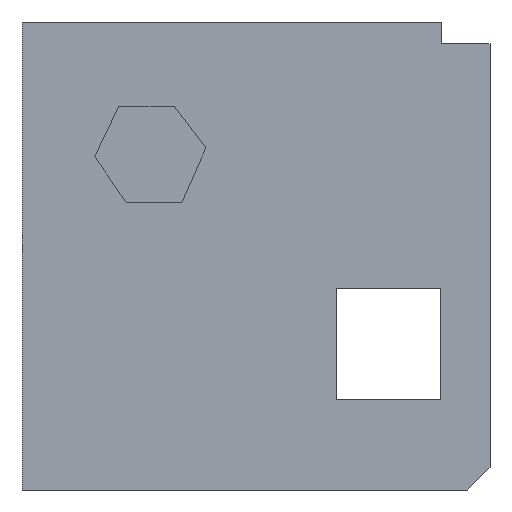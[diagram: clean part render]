
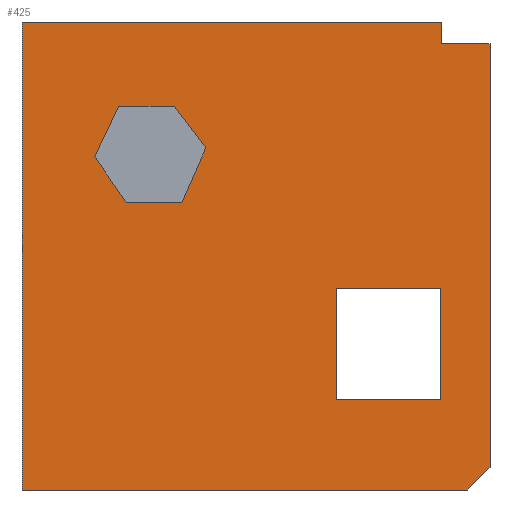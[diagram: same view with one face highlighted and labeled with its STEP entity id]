
A CAD part, left-side view. The second image highlights one B-rep face of the part: STEP entity #425.
In plain terms, the highlighted planar face has unit normal (-1, 0, 0).
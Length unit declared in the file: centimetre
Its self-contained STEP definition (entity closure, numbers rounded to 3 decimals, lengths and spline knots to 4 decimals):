
#3 = DIRECTION ( 'NONE',  ( 0., 0., -1. ) ) ;
#4 = EDGE_CURVE ( 'NONE', #562, #194, #580, .T. ) ;
#13 = CARTESIAN_POINT ( 'NONE',  ( 0., 328.7782, 192.6639 ) ) ;
#27 = ORIENTED_EDGE ( 'NONE', *, *, #275, .T. ) ;
#37 = CARTESIAN_POINT ( 'NONE',  ( 0., 0., 953.7079 ) ) ;
#40 = VERTEX_POINT ( 'NONE', #463 ) ;
#43 = CARTESIAN_POINT ( 'NONE',  ( 0., 777.1706, 614.1453 ) ) ;
#50 = DIRECTION ( 'NONE',  ( 0., -1., 0. ) ) ;
#68 = CARTESIAN_POINT ( 'NONE',  ( 0., 1000., 1000. ) ) ;
#75 = VERTEX_POINT ( 'NONE', #279 ) ;
#85 = DIRECTION ( 'NONE',  ( 0., -0.567, -0.824 ) ) ;
#87 = EDGE_CURVE ( 'NONE', #75, #521, #113, .T. ) ;
#92 = DIRECTION ( 'NONE',  ( 0., -1., 0. ) ) ;
#98 = CARTESIAN_POINT ( 'NONE',  ( 0., 106.5347, 431.6053 ) ) ;
#110 = DIRECTION ( 'NONE',  ( 0., 0., -1. ) ) ;
#113 = LINE ( 'NONE', #379, #866 ) ;
#124 = ORIENTED_EDGE ( 'NONE', *, *, #612, .T. ) ;
#130 = EDGE_LOOP ( 'NONE', ( #295, #833, #807, #315, #124, #575, #131 ) ) ;
#131 = ORIENTED_EDGE ( 'NONE', *, *, #355, .T. ) ;
#140 = DIRECTION ( 'NONE',  ( 0., 0., -1. ) ) ;
#143 = EDGE_CURVE ( 'NONE', #1066, #410, #207, .T. ) ;
#146 = FACE_OUTER_BOUND ( 'NONE', #130, .T. ) ;
#150 = DIRECTION ( 'NONE',  ( 0., -0.707, 0.707 ) ) ;
#168 = LINE ( 'NONE', #68, #835 ) ;
#182 = LINE ( 'NONE', #723, #915 ) ;
#190 = EDGE_CURVE ( 'NONE', #697, #562, #797, .T. ) ;
#193 = VECTOR ( 'NONE', #391, 100. ) ;
#194 = VERTEX_POINT ( 'NONE', #37 ) ;
#202 = LINE ( 'NONE', #13, #966 ) ;
#207 = LINE ( 'NONE', #555, #766 ) ;
#211 = CARTESIAN_POINT ( 'NONE',  ( 0., 106.5347, 192.6639 ) ) ;
#223 = ORIENTED_EDGE ( 'NONE', *, *, #631, .T. ) ;
#225 = LINE ( 'NONE', #939, #285 ) ;
#248 = CARTESIAN_POINT ( 'NONE',  ( 0., 777.1706, 614.1453 ) ) ;
#249 = VERTEX_POINT ( 'NONE', #804 ) ;
#260 = CARTESIAN_POINT ( 'NONE',  ( 0., 658.4761, 614.1453 ) ) ;
#275 = EDGE_CURVE ( 'NONE', #388, #249, #811, .T. ) ;
#279 = CARTESIAN_POINT ( 'NONE',  ( 0., 607.2365, 730.9806 ) ) ;
#282 = CARTESIAN_POINT ( 'NONE',  ( 0., 104.6143, 1000. ) ) ;
#285 = VECTOR ( 'NONE', #576, 100. ) ;
#295 = ORIENTED_EDGE ( 'NONE', *, *, #489, .F. ) ;
#315 = ORIENTED_EDGE ( 'NONE', *, *, #573, .F. ) ;
#316 = CARTESIAN_POINT ( 'NONE',  ( 0., 1000., 1000. ) ) ;
#319 = CARTESIAN_POINT ( 'NONE',  ( 0., 0., 47.826 ) ) ;
#321 = ORIENTED_EDGE ( 'NONE', *, *, #826, .F. ) ;
#326 = VECTOR ( 'NONE', #110, 100. ) ;
#333 = CARTESIAN_POINT ( 'NONE',  ( 0., 47.826, 0. ) ) ;
#343 = VECTOR ( 'NONE', #92, 100. ) ;
#349 = EDGE_LOOP ( 'NONE', ( #223, #437, #607, #27 ) ) ;
#355 = EDGE_CURVE ( 'NONE', #552, #380, #747, .T. ) ;
#365 = CARTESIAN_POINT ( 'NONE',  ( 0., 793.3859, 819.7302 ) ) ;
#378 = AXIS2_PLACEMENT_3D ( 'NONE', #928, #1098, #140 ) ;
#379 = CARTESIAN_POINT ( 'NONE',  ( 0., 607.2365, 730.9806 ) ) ;
#380 = VERTEX_POINT ( 'NONE', #847 ) ;
#383 = CARTESIAN_POINT ( 'NONE',  ( 0., 1000., 1000. ) ) ;
#388 = VERTEX_POINT ( 'NONE', #500 ) ;
#391 = DIRECTION ( 'NONE',  ( 0., 0., -1. ) ) ;
#395 = VERTEX_POINT ( 'NONE', #43 ) ;
#397 = DIRECTION ( 'NONE',  ( 0., -1., 0. ) ) ;
#410 = VERTEX_POINT ( 'NONE', #1014 ) ;
#415 = VECTOR ( 'NONE', #3, 100. ) ;
#419 = LINE ( 'NONE', #661, #578 ) ;
#420 = EDGE_CURVE ( 'NONE', #896, #552, #419, .T. ) ;
#425 = ADVANCED_FACE ( 'NONE', ( #754, #666, #146 ), #941, .F. ) ;
#427 = CARTESIAN_POINT ( 'NONE',  ( 0., 1000., 0. ) ) ;
#428 = DIRECTION ( 'NONE',  ( 0., -1., 0. ) ) ;
#435 = VECTOR ( 'NONE', #50, 100. ) ;
#437 = ORIENTED_EDGE ( 'NONE', *, *, #143, .T. ) ;
#440 = LINE ( 'NONE', #248, #852 ) ;
#463 = CARTESIAN_POINT ( 'NONE',  ( 0., 793.3859, 819.7302 ) ) ;
#465 = CARTESIAN_POINT ( 'NONE',  ( 0., 844.6255, 712.2568 ) ) ;
#466 = EDGE_CURVE ( 'NONE', #395, #1089, #440, .T. ) ;
#489 = EDGE_CURVE ( 'NONE', #194, #380, #592, .T. ) ;
#500 = CARTESIAN_POINT ( 'NONE',  ( 0., 328.7782, 431.6053 ) ) ;
#521 = VERTEX_POINT ( 'NONE', #610 ) ;
#529 = CARTESIAN_POINT ( 'NONE',  ( 0., 658.4761, 614.1453 ) ) ;
#536 = VECTOR ( 'NONE', #150, 100. ) ;
#537 = DIRECTION ( 'NONE',  ( 0., 0.43, -0.903 ) ) ;
#552 = VERTEX_POINT ( 'NONE', #333 ) ;
#555 = CARTESIAN_POINT ( 'NONE',  ( 0., 106.5347, 192.6639 ) ) ;
#562 = VERTEX_POINT ( 'NONE', #701 ) ;
#573 = EDGE_CURVE ( 'NONE', #761, #697, #168, .T. ) ;
#575 = ORIENTED_EDGE ( 'NONE', *, *, #420, .T. ) ;
#576 = DIRECTION ( 'NONE',  ( 0., 1., 0. ) ) ;
#578 = VECTOR ( 'NONE', #397, 100. ) ;
#580 = LINE ( 'NONE', #760, #435 ) ;
#592 = LINE ( 'NONE', #1139, #1095 ) ;
#607 = ORIENTED_EDGE ( 'NONE', *, *, #1094, .T. ) ;
#609 = VECTOR ( 'NONE', #537, 100. ) ;
#610 = CARTESIAN_POINT ( 'NONE',  ( 0., 674.6914, 819.7302 ) ) ;
#611 = ORIENTED_EDGE ( 'NONE', *, *, #906, .F. ) ;
#612 = EDGE_CURVE ( 'NONE', #761, #896, #614, .T. ) ;
#614 = LINE ( 'NONE', #383, #326 ) ;
#625 = EDGE_LOOP ( 'NONE', ( #635, #321, #1040, #611, #684, #956 ) ) ;
#631 = EDGE_CURVE ( 'NONE', #249, #1066, #983, .T. ) ;
#635 = ORIENTED_EDGE ( 'NONE', *, *, #673, .F. ) ;
#661 = CARTESIAN_POINT ( 'NONE',  ( 0., 1000., 0. ) ) ;
#666 = FACE_BOUND ( 'NONE', #349, .T. ) ;
#673 = EDGE_CURVE ( 'NONE', #40, #1048, #975, .T. ) ;
#684 = ORIENTED_EDGE ( 'NONE', *, *, #466, .F. ) ;
#697 = VERTEX_POINT ( 'NONE', #282 ) ;
#701 = CARTESIAN_POINT ( 'NONE',  ( 0., 104.6143, 953.7079 ) ) ;
#723 = CARTESIAN_POINT ( 'NONE',  ( 0., 844.6255, 712.2568 ) ) ;
#747 = LINE ( 'NONE', #319, #536 ) ;
#754 = FACE_BOUND ( 'NONE', #625, .T. ) ;
#760 = CARTESIAN_POINT ( 'NONE',  ( 0., 104.6143, 953.7079 ) ) ;
#761 = VERTEX_POINT ( 'NONE', #316 ) ;
#766 = VECTOR ( 'NONE', #821, 100. ) ;
#777 = DIRECTION ( 'NONE',  ( 0., 0., -1. ) ) ;
#797 = LINE ( 'NONE', #886, #193 ) ;
#804 = CARTESIAN_POINT ( 'NONE',  ( 0., 106.5347, 431.6053 ) ) ;
#807 = ORIENTED_EDGE ( 'NONE', *, *, #190, .F. ) ;
#811 = LINE ( 'NONE', #98, #343 ) ;
#821 = DIRECTION ( 'NONE',  ( 0., 1., 0. ) ) ;
#826 = EDGE_CURVE ( 'NONE', #521, #40, #225, .T. ) ;
#833 = ORIENTED_EDGE ( 'NONE', *, *, #4, .F. ) ;
#835 = VECTOR ( 'NONE', #863, 100. ) ;
#844 = VECTOR ( 'NONE', #1126, 100. ) ;
#847 = CARTESIAN_POINT ( 'NONE',  ( 0., 0., 47.826 ) ) ;
#852 = VECTOR ( 'NONE', #428, 100. ) ;
#858 = LINE ( 'NONE', #260, #844 ) ;
#863 = DIRECTION ( 'NONE',  ( 0., -1., 0. ) ) ;
#866 = VECTOR ( 'NONE', #979, 100. ) ;
#876 = DIRECTION ( 'NONE',  ( 0., 0., 1. ) ) ;
#886 = CARTESIAN_POINT ( 'NONE',  ( 0., 104.6143, 953.7079 ) ) ;
#896 = VERTEX_POINT ( 'NONE', #427 ) ;
#906 = EDGE_CURVE ( 'NONE', #1089, #75, #858, .T. ) ;
#915 = VECTOR ( 'NONE', #85, 100. ) ;
#928 = CARTESIAN_POINT ( 'NONE',  ( 0., 1000., 1000. ) ) ;
#939 = CARTESIAN_POINT ( 'NONE',  ( 0., 674.6914, 819.7302 ) ) ;
#941 = PLANE ( 'NONE',  #378 ) ;
#956 = ORIENTED_EDGE ( 'NONE', *, *, #1070, .F. ) ;
#966 = VECTOR ( 'NONE', #876, 100. ) ;
#975 = LINE ( 'NONE', #365, #609 ) ;
#979 = DIRECTION ( 'NONE',  ( 0., 0.605, 0.796 ) ) ;
#983 = LINE ( 'NONE', #211, #415 ) ;
#1014 = CARTESIAN_POINT ( 'NONE',  ( 0., 328.7782, 192.6639 ) ) ;
#1040 = ORIENTED_EDGE ( 'NONE', *, *, #87, .F. ) ;
#1048 = VERTEX_POINT ( 'NONE', #465 ) ;
#1056 = CARTESIAN_POINT ( 'NONE',  ( 0., 106.5347, 192.6639 ) ) ;
#1066 = VERTEX_POINT ( 'NONE', #1056 ) ;
#1070 = EDGE_CURVE ( 'NONE', #1048, #395, #182, .T. ) ;
#1089 = VERTEX_POINT ( 'NONE', #529 ) ;
#1094 = EDGE_CURVE ( 'NONE', #410, #388, #202, .T. ) ;
#1095 = VECTOR ( 'NONE', #777, 100. ) ;
#1098 = DIRECTION ( 'NONE',  ( 1., 0., 0. ) ) ;
#1126 = DIRECTION ( 'NONE',  ( 0., -0.402, 0.916 ) ) ;
#1139 = CARTESIAN_POINT ( 'NONE',  ( 0., 0., 1000. ) ) ;
